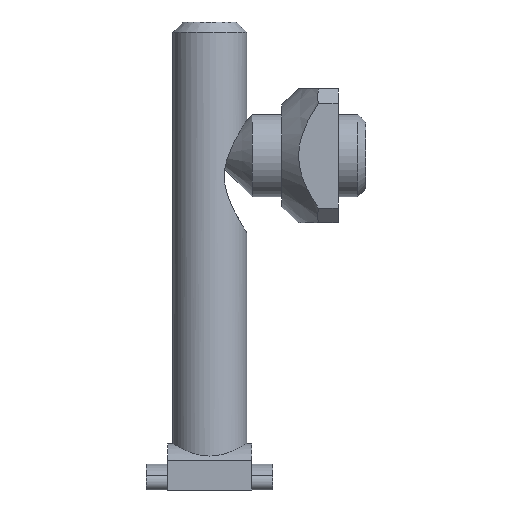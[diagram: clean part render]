
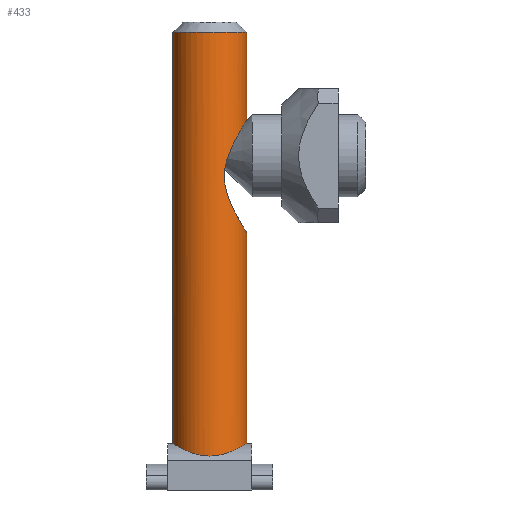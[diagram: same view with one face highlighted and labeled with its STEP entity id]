
A CAD part, left-side view. The second image highlights one B-rep face of the part: STEP entity #433.
In plain terms, the highlighted cylindrical face has radius 3.6 mm (diameter 7.2 mm), a full revolution.
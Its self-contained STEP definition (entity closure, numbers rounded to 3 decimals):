
#280=CARTESIAN_POINT('',(3.6,0.,44.5));
#281=VERTEX_POINT('',#280);
#282=CARTESIAN_POINT('',(0.,0.,44.5));
#283=DIRECTION('',(0.0,0.0,-1.0));
#284=DIRECTION('',(-1.0,0.0,0.0));
#285=AXIS2_PLACEMENT_3D('',#282,#283,#284);
#286=CIRCLE('',#285,3.6);
#287=EDGE_CURVE('',#281,#281,#286,.F.);
#308=CARTESIAN_POINT('',(3.312,-1.412,30.5));
#309=VERTEX_POINT('',#308);
#310=CARTESIAN_POINT('',(-3.312,-1.412,30.5));
#311=VERTEX_POINT('',#310);
#312=CARTESIAN_POINT('',(-3.312,-1.412,30.5));
#313=CARTESIAN_POINT('',(-3.312,-1.412,29.944));
#314=CARTESIAN_POINT('',(-3.269,-1.522,29.354));
#315=CARTESIAN_POINT('',(-3.075,-1.883,28.23));
#316=CARTESIAN_POINT('',(-2.921,-2.126,27.693));
#317=CARTESIAN_POINT('',(-2.597,-2.5,26.937));
#318=CARTESIAN_POINT('',(-2.437,-2.662,26.632));
#319=CARTESIAN_POINT('',(-2.045,-2.973,26.066));
#320=CARTESIAN_POINT('',(-1.814,-3.122,25.807));
#321=CARTESIAN_POINT('',(-1.36,-3.341,25.433));
#322=CARTESIAN_POINT('',(-1.114,-3.435,25.275));
#323=CARTESIAN_POINT('',(-0.574,-3.565,25.058));
#324=CARTESIAN_POINT('',(-0.28,-3.6,25.));
#325=CARTESIAN_POINT('',(0.28,-3.6,25.));
#326=CARTESIAN_POINT('',(0.574,-3.565,25.058));
#327=CARTESIAN_POINT('',(1.114,-3.435,25.275));
#328=CARTESIAN_POINT('',(1.36,-3.341,25.433));
#329=CARTESIAN_POINT('',(1.814,-3.122,25.807));
#330=CARTESIAN_POINT('',(2.045,-2.973,26.066));
#331=CARTESIAN_POINT('',(2.437,-2.662,26.632));
#332=CARTESIAN_POINT('',(2.597,-2.5,26.937));
#333=CARTESIAN_POINT('',(2.921,-2.126,27.693));
#334=CARTESIAN_POINT('',(3.075,-1.883,28.23));
#335=CARTESIAN_POINT('',(3.269,-1.522,29.354));
#336=CARTESIAN_POINT('',(3.312,-1.412,29.944));
#337=CARTESIAN_POINT('',(3.312,-1.412,30.5));
#338=B_SPLINE_CURVE_WITH_KNOTS('',3,(#312,#313,#314,#315,#316,#317,#318,#319,#320,#321,#322,#323,#324,#325,#326,#327,#328,#329,#330,#331,#332,#333,#334,#335,#336,#337),.UNSPECIFIED.,.F.,.U.,(4,2,2,2,2,2,2,2,2,2,2,2,4),(-1.42,-1.254,-1.087,-0.983,-0.878,-0.794,-0.71,-0.626,-0.542,-0.438,-0.334,-0.167,0.0),.UNSPECIFIED.);
#339=EDGE_CURVE('',#309,#311,#338,.F.);
#341=CARTESIAN_POINT('',(3.312,-1.412,30.5));
#342=CARTESIAN_POINT('',(3.312,-1.412,31.056));
#343=CARTESIAN_POINT('',(3.269,-1.522,31.646));
#344=CARTESIAN_POINT('',(3.075,-1.883,32.77));
#345=CARTESIAN_POINT('',(2.921,-2.126,33.307));
#346=CARTESIAN_POINT('',(2.597,-2.5,34.062));
#347=CARTESIAN_POINT('',(2.437,-2.662,34.368));
#348=CARTESIAN_POINT('',(2.045,-2.973,34.934));
#349=CARTESIAN_POINT('',(1.814,-3.122,35.193));
#350=CARTESIAN_POINT('',(1.36,-3.341,35.567));
#351=CARTESIAN_POINT('',(1.114,-3.435,35.725));
#352=CARTESIAN_POINT('',(0.574,-3.565,35.942));
#353=CARTESIAN_POINT('',(0.28,-3.6,36.));
#354=CARTESIAN_POINT('',(-0.28,-3.6,36.));
#355=CARTESIAN_POINT('',(-0.574,-3.565,35.942));
#356=CARTESIAN_POINT('',(-1.114,-3.435,35.725));
#357=CARTESIAN_POINT('',(-1.36,-3.341,35.567));
#358=CARTESIAN_POINT('',(-1.814,-3.122,35.193));
#359=CARTESIAN_POINT('',(-2.045,-2.973,34.934));
#360=CARTESIAN_POINT('',(-2.437,-2.662,34.368));
#361=CARTESIAN_POINT('',(-2.597,-2.5,34.062));
#362=CARTESIAN_POINT('',(-2.921,-2.126,33.307));
#363=CARTESIAN_POINT('',(-3.075,-1.883,32.77));
#364=CARTESIAN_POINT('',(-3.269,-1.522,31.646));
#365=CARTESIAN_POINT('',(-3.312,-1.412,31.056));
#366=CARTESIAN_POINT('',(-3.312,-1.412,30.5));
#367=B_SPLINE_CURVE_WITH_KNOTS('',3,(#341,#342,#343,#344,#345,#346,#347,#348,#349,#350,#351,#352,#353,#354,#355,#356,#357,#358,#359,#360,#361,#362,#363,#364,#365,#366),.UNSPECIFIED.,.F.,.U.,(4,2,2,2,2,2,2,2,2,2,2,2,4),(-2.841,-2.674,-2.507,-2.403,-2.299,-2.215,-2.131,-2.047,-1.962,-1.858,-1.754,-1.587,-1.42),.UNSPECIFIED.);
#368=EDGE_CURVE('',#311,#309,#367,.F.);
#373=CARTESIAN_POINT('',(0.,0.,2.424));
#374=DIRECTION('',(0.0,0.0,-1.0));
#375=DIRECTION('',(-1.0,0.0,0.0));
#376=AXIS2_PLACEMENT_3D('',#373,#374,#375);
#377=CYLINDRICAL_SURFACE('',#376,3.6);
#378=ORIENTED_EDGE('',*,*,#287,.F.);
#379=EDGE_LOOP('',(#378));
#380=FACE_OUTER_BOUND('',#379,.T.);
#381=CARTESIAN_POINT('',(-3.6,0.,3.3));
#382=VERTEX_POINT('',#381);
#383=CARTESIAN_POINT('',(3.6,0.,3.3));
#384=VERTEX_POINT('',#383);
#385=CARTESIAN_POINT('',(-3.6,0.,3.3));
#386=CARTESIAN_POINT('',(-3.6,0.468,3.3));
#387=CARTESIAN_POINT('',(-3.504,0.954,3.376));
#388=CARTESIAN_POINT('',(-3.134,1.835,3.621));
#389=CARTESIAN_POINT('',(-2.86,2.232,3.786));
#390=CARTESIAN_POINT('',(-2.234,2.858,4.079));
#391=CARTESIAN_POINT('',(-1.837,3.133,4.23));
#392=CARTESIAN_POINT('',(-0.953,3.505,4.441));
#393=CARTESIAN_POINT('',(-0.465,3.6,4.5));
#394=CARTESIAN_POINT('',(0.465,3.6,4.5));
#395=CARTESIAN_POINT('',(0.953,3.505,4.441));
#396=CARTESIAN_POINT('',(1.837,3.133,4.23));
#397=CARTESIAN_POINT('',(2.234,2.858,4.079));
#398=CARTESIAN_POINT('',(2.86,2.232,3.786));
#399=CARTESIAN_POINT('',(3.134,1.835,3.621));
#400=CARTESIAN_POINT('',(3.504,0.954,3.376));
#401=CARTESIAN_POINT('',(3.6,0.468,3.3));
#402=CARTESIAN_POINT('',(3.6,0.,3.3));
#403=B_SPLINE_CURVE_WITH_KNOTS('',3,(#385,#386,#387,#388,#389,#390,#391,#392,#393,#394,#395,#396,#397,#398,#399,#400,#401,#402),.UNSPECIFIED.,.F.,.U.,(4,2,2,2,2,2,2,2,4),(1.119,1.26,1.4,1.539,1.679,1.818,1.958,2.098,2.238),.UNSPECIFIED.);
#404=EDGE_CURVE('',#382,#384,#403,.T.);
#405=ORIENTED_EDGE('',*,*,#404,.F.);
#406=CARTESIAN_POINT('',(3.6,0.,3.3));
#407=CARTESIAN_POINT('',(3.6,-0.468,3.3));
#408=CARTESIAN_POINT('',(3.504,-0.954,3.376));
#409=CARTESIAN_POINT('',(3.134,-1.835,3.621));
#410=CARTESIAN_POINT('',(2.86,-2.232,3.786));
#411=CARTESIAN_POINT('',(2.234,-2.858,4.079));
#412=CARTESIAN_POINT('',(1.837,-3.133,4.23));
#413=CARTESIAN_POINT('',(0.953,-3.505,4.441));
#414=CARTESIAN_POINT('',(0.465,-3.6,4.5));
#415=CARTESIAN_POINT('',(-0.465,-3.6,4.5));
#416=CARTESIAN_POINT('',(-0.953,-3.505,4.441));
#417=CARTESIAN_POINT('',(-1.837,-3.133,4.23));
#418=CARTESIAN_POINT('',(-2.234,-2.858,4.079));
#419=CARTESIAN_POINT('',(-2.86,-2.232,3.786));
#420=CARTESIAN_POINT('',(-3.134,-1.835,3.621));
#421=CARTESIAN_POINT('',(-3.504,-0.954,3.376));
#422=CARTESIAN_POINT('',(-3.6,-0.468,3.3));
#423=CARTESIAN_POINT('',(-3.6,0.,3.3));
#424=B_SPLINE_CURVE_WITH_KNOTS('',3,(#406,#407,#408,#409,#410,#411,#412,#413,#414,#415,#416,#417,#418,#419,#420,#421,#422,#423),.UNSPECIFIED.,.F.,.U.,(4,2,2,2,2,2,2,2,4),(0.0,0.14,0.281,0.42,0.56,0.699,0.838,0.979,1.119),.UNSPECIFIED.);
#425=EDGE_CURVE('',#384,#382,#424,.T.);
#426=ORIENTED_EDGE('',*,*,#425,.F.);
#427=EDGE_LOOP('',(#405,#426));
#428=FACE_BOUND('',#427,.T.);
#429=ORIENTED_EDGE('',*,*,#339,.T.);
#430=ORIENTED_EDGE('',*,*,#368,.T.);
#431=EDGE_LOOP('',(#429,#430));
#432=FACE_BOUND('',#431,.T.);
#433=ADVANCED_FACE('',(#380,#428,#432),#377,.T.);
